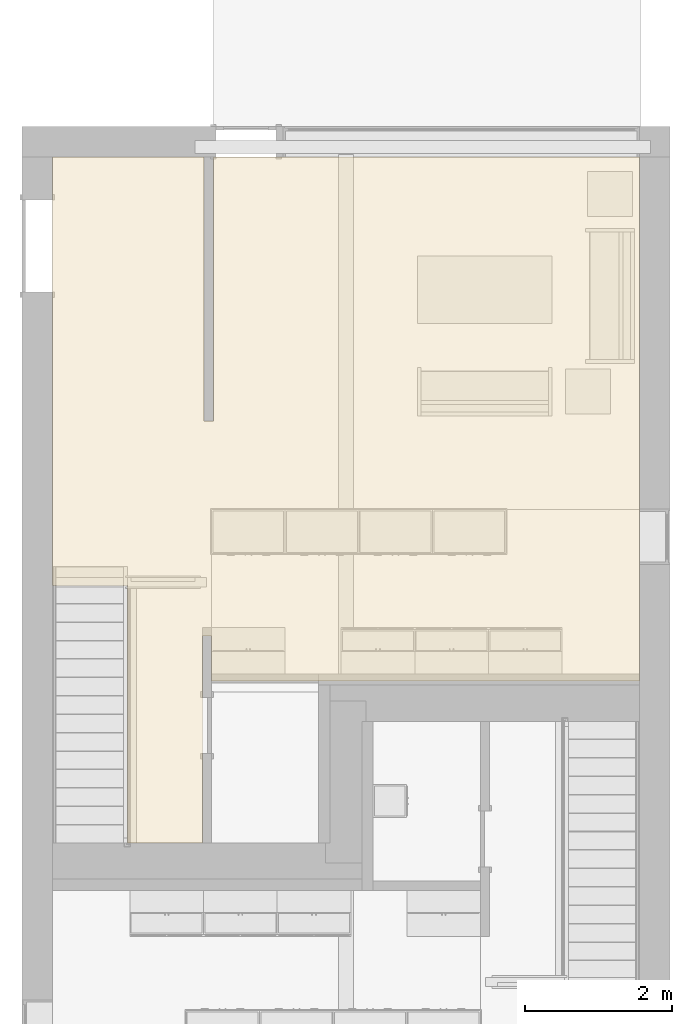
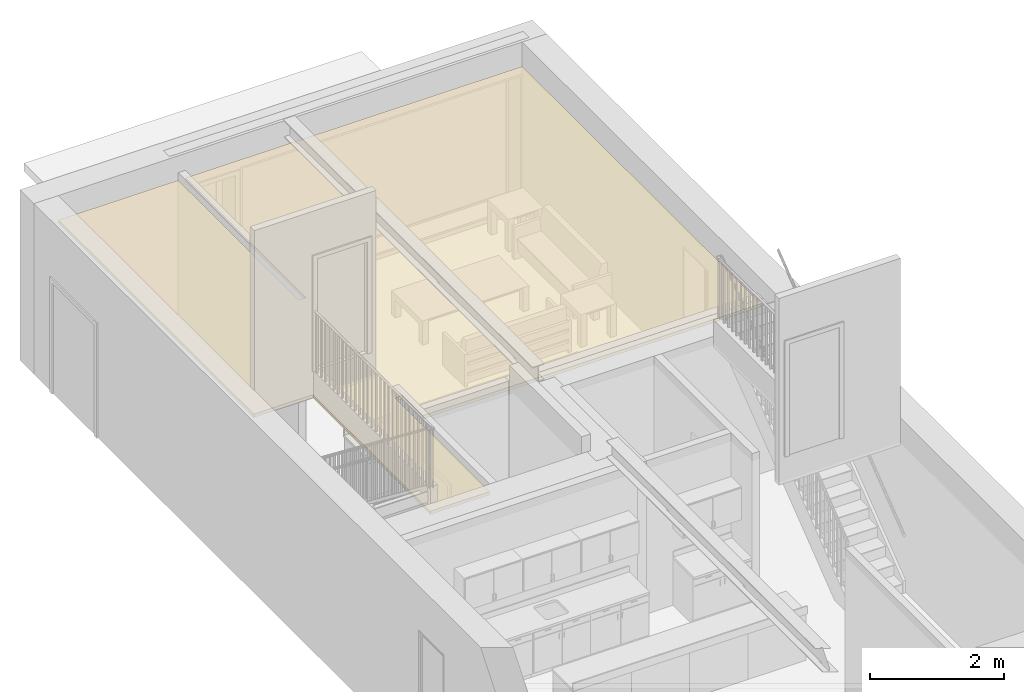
# One storey, part 4 of 14: 1 covering.
"""IFC4 building model written with IfcOpenShell, lengths in metres."""

from ifc_helpers import new_model, entity, si_unit, converted_unit, origin, place, context, project, spatial, face_set, surface_model, element, save


model = new_model("IFC4")

# Units and contexts
model_context = context("Model", 3, precision=1e-09, world=origin())
plan_context = context("Plan", 3, precision=1e-09, world=origin())
ifc_project = project(units=[si_unit("LENGTHUNIT", "METRE"), si_unit("AREAUNIT", "SQUARE_METRE"), si_unit("VOLUMEUNIT", "CUBIC_METRE"), converted_unit("PLANEANGLEUNIT", "DEGREE", entity("IfcRatioMeasure", 0.01745329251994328), si_unit("PLANEANGLEUNIT", "RADIAN"), dimensions=[0, 0, 0, 0, 0, 0, 0]), si_unit("TIMEUNIT", "SECOND")], contexts=[model_context, plan_context])

# Site, building, storey
site_placement = place(None, origin())
site = spatial("IfcSite", under=ifc_project, at=site_placement, Name="Default", CompositionType="ELEMENT")
building_placement = place(site_placement, origin())
building = spatial("IfcBuilding", under=site, at=building_placement, CompositionType="ELEMENT")
storey_placement = place(building_placement, origin())
storey = spatial("IfcBuildingStorey", under=building, at=storey_placement, Name="Level 1", CompositionType="ELEMENT", Elevation=0.0)

# Covering
covering_placement = place(storey_placement, origin())
element("IfcCovering", 1, at=covering_placement, inside=storey, Name="Compound Ceiling:Gypsum Board", ObjectType="Compound Ceiling:Gypsum Board", PredefinedType="CEILING", context=model_context, shape_type="SurfaceModel", body=[
    surface_model("IfcFaceBasedSurfaceModel", [(2.476, -0.4170000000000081, 2.657), (2.475999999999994, -4.0, 2.657), (2.599999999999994, -4.0, 2.657), (2.6, -0.4170000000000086, 2.657), (8.383, -0.4170000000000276, 2.657), (8.382999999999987, -7.525000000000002, 2.657), (2.574000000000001, -7.524999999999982, 2.657), (2.574000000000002, -6.920000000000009, 2.657), (2.450000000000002, -6.920000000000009, 2.657), (2.449999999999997, -9.725000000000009, 2.657), (1.4314, -9.725000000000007, 2.657), (1.431400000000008, -6.234000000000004, 2.657), (0.4169999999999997, -6.234000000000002, 2.657), (0.417, -0.4170000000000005, 2.657), (2.476, -0.4170000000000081, 2.6), (0.4170000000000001, -0.4170000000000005, 2.6), (0.4169999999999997, -6.234000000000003, 2.6), (1.431400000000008, -6.234000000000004, 2.6), (1.4314, -9.725000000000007, 2.6), (2.449999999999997, -9.725000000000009, 2.6), (2.450000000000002, -6.920000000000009, 2.6), (2.574000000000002, -6.920000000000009, 2.6), (2.574000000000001, -7.524999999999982, 2.6), (8.382999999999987, -7.525000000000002, 2.6), (8.383, -0.4170000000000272, 2.6), (2.6, -0.4170000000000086, 2.6), (2.599999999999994, -4.0, 2.6), (2.475999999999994, -4.0, 2.6)], [face_set([[[0, 1, 2, 3, 4, 5, 6, 7, 8, 9, 10, 11, 12, 13]], [[14, 15, 16, 17, 18, 19, 20, 21, 22, 23, 24, 25, 26, 27]], [[13, 0, 14, 15]], [[12, 13, 15, 16]], [[11, 17, 16, 12]], [[10, 11, 17, 18]], [[9, 19, 18, 10]], [[8, 20, 19, 9]], [[7, 21, 20, 8]], [[6, 7, 21, 22]], [[5, 23, 22, 6]], [[4, 24, 23, 5]], [[3, 4, 24, 25]], [[2, 3, 25, 26]], [[1, 2, 26, 27]], [[0, 14, 27, 1]]])]),
])

save(model, "model.ifc")
